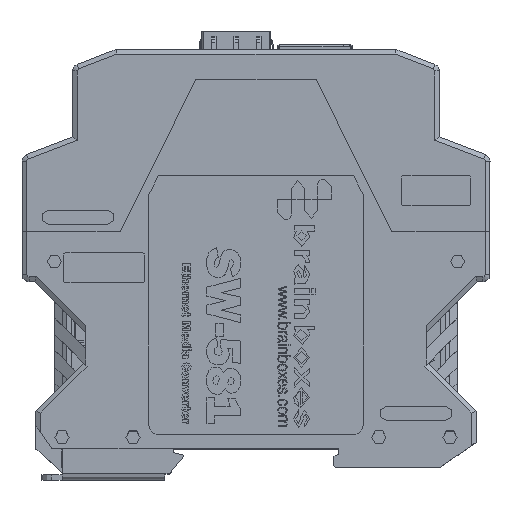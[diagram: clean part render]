
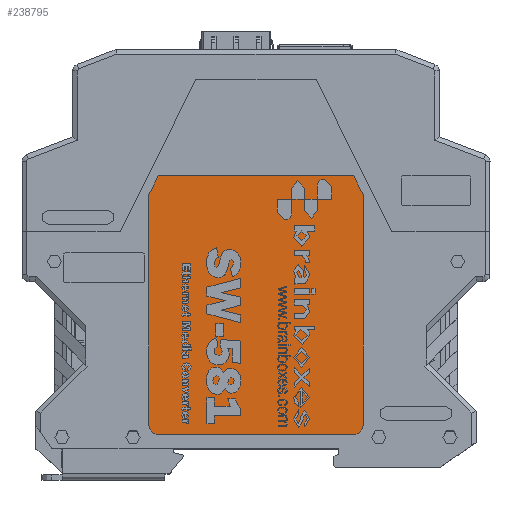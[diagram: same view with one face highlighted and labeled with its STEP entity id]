
A CAD part, top view. The second image highlights one B-rep face of the part: STEP entity #238795.
In plain terms, the highlighted planar face has unit normal (0, 0, 1).
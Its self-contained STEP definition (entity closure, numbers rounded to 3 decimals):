
#233156 = VERTEX_POINT('',#233157);
#233157 = CARTESIAN_POINT('',(16.85,14.2,18.7));
#233163 = EDGE_CURVE('',#233164,#233156,#233166,.T.);
#233164 = VERTEX_POINT('',#233165);
#233165 = CARTESIAN_POINT('',(18.85,10.2,18.7));
#233166 = LINE('',#233167,#233168);
#233167 = CARTESIAN_POINT('',(48.04,-48.18,18.7));
#233168 = VECTOR('',#233169,1.);
#233169 = DIRECTION('',(-0.447,0.894,0.));
#233525 = VERTEX_POINT('',#233526);
#233526 = CARTESIAN_POINT('',(-26.45,-38.6,18.7));
#233532 = EDGE_CURVE('',#233525,#233533,#233535,.T.);
#233533 = VERTEX_POINT('',#233534);
#233534 = CARTESIAN_POINT('',(-24.45,-40.6,18.7));
#233535 = CIRCLE('',#233536,2.);
#233536 = AXIS2_PLACEMENT_3D('',#233537,#233538,#233539);
#233537 = CARTESIAN_POINT('',(-24.45,-38.6,18.7));
#233538 = DIRECTION('',(0.,0.,1.));
#233539 = DIRECTION('',(1.,0.,0.));
#234666 = EDGE_CURVE('',#233156,#234667,#234669,.T.);
#234667 = VERTEX_POINT('',#234668);
#234668 = CARTESIAN_POINT('',(-24.45,14.2,18.7));
#234669 = LINE('',#234670,#234671);
#234670 = CARTESIAN_POINT('',(-3.8,14.2,18.7));
#234671 = VECTOR('',#234672,1.);
#234672 = DIRECTION('',(-1.,0.,0.));
#236209 = VERTEX_POINT('',#236210);
#236210 = CARTESIAN_POINT('',(-26.45,10.2,18.7));
#236216 = EDGE_CURVE('',#234667,#236209,#236217,.T.);
#236217 = LINE('',#236218,#236219);
#236218 = CARTESIAN_POINT('',(-55.64,-48.18,18.7));
#236219 = VECTOR('',#236220,1.);
#236220 = DIRECTION('',(-0.447,-0.894,0.));
#236775 = EDGE_CURVE('',#236776,#233164,#236778,.T.);
#236776 = VERTEX_POINT('',#236777);
#236777 = CARTESIAN_POINT('',(18.85,-38.6,18.7));
#236778 = LINE('',#236779,#236780);
#236779 = CARTESIAN_POINT('',(18.85,-51.6,18.7));
#236780 = VECTOR('',#236781,1.);
#236781 = DIRECTION('',(0.,1.,0.));
#237303 = EDGE_CURVE('',#236209,#233525,#237304,.T.);
#237304 = LINE('',#237305,#237306);
#237305 = CARTESIAN_POINT('',(-26.45,-74.1,18.7));
#237306 = VECTOR('',#237307,1.);
#237307 = DIRECTION('',(0.,-1.,0.));
#238443 = VERTEX_POINT('',#238444);
#238444 = CARTESIAN_POINT('',(16.85,-40.6,18.7));
#238450 = EDGE_CURVE('',#238443,#236776,#238451,.T.);
#238451 = CIRCLE('',#238452,2.);
#238452 = AXIS2_PLACEMENT_3D('',#238453,#238454,#238455);
#238453 = CARTESIAN_POINT('',(16.85,-38.6,18.7));
#238454 = DIRECTION('',(0.,0.,1.));
#238455 = DIRECTION('',(1.,0.,0.));
#238795 = ADVANCED_FACE('',(#238796),#238811,.T.);
#238796 = FACE_BOUND('',#238797,.T.);
#238797 = EDGE_LOOP('',(#238798,#238804,#238805,#238806,#238807,#238808,
    #238809,#238810));
#238798 = ORIENTED_EDGE('',*,*,#238799,.F.);
#238799 = EDGE_CURVE('',#238443,#233533,#238800,.T.);
#238800 = LINE('',#238801,#238802);
#238801 = CARTESIAN_POINT('',(-3.8,-40.6,18.7));
#238802 = VECTOR('',#238803,1.);
#238803 = DIRECTION('',(-1.,0.,0.));
#238804 = ORIENTED_EDGE('',*,*,#238450,.T.);
#238805 = ORIENTED_EDGE('',*,*,#236775,.T.);
#238806 = ORIENTED_EDGE('',*,*,#233163,.T.);
#238807 = ORIENTED_EDGE('',*,*,#234666,.T.);
#238808 = ORIENTED_EDGE('',*,*,#236216,.T.);
#238809 = ORIENTED_EDGE('',*,*,#237303,.T.);
#238810 = ORIENTED_EDGE('',*,*,#233532,.T.);
#238811 = PLANE('',#238812);
#238812 = AXIS2_PLACEMENT_3D('',#238813,#238814,#238815);
#238813 = CARTESIAN_POINT('',(-3.8,37.75,18.7));
#238814 = DIRECTION('',(0.,0.,1.));
#238815 = DIRECTION('',(1.,0.,0.));
